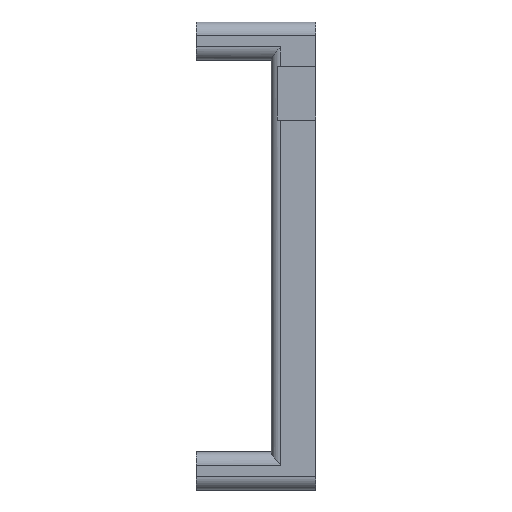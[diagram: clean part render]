
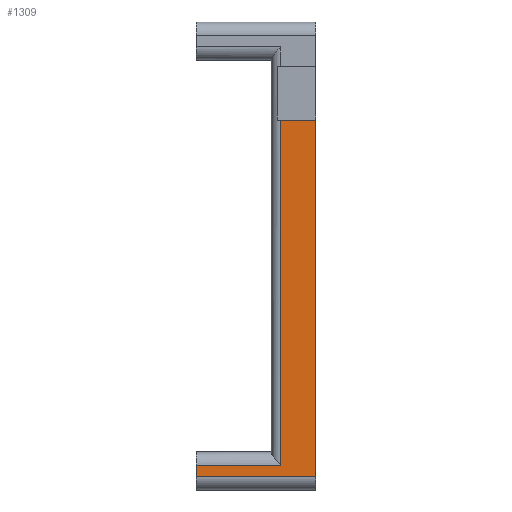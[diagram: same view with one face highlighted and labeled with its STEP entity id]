
A CAD part, left-side view. The second image highlights one B-rep face of the part: STEP entity #1309.
In plain terms, the highlighted planar face has unit normal (-1, 0, 0).
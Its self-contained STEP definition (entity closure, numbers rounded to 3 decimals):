
#52 = EDGE_CURVE ( 'NONE', #1018, #2530, #669, .T. ) ;
#133 = DIRECTION ( 'NONE',  ( 0., 0., -1. ) ) ;
#250 = EDGE_CURVE ( 'NONE', #613, #3420, #2413, .T. ) ;
#253 = VECTOR ( 'NONE', #2078, 1000. ) ;
#346 = CARTESIAN_POINT ( 'NONE',  ( -19.7, 2., -91.95 ) ) ;
#378 = CARTESIAN_POINT ( 'NONE',  ( -19.7, -6., -91.8 ) ) ;
#457 = VECTOR ( 'NONE', #1231, 1000. ) ;
#613 = VERTEX_POINT ( 'NONE', #378 ) ;
#669 = LINE ( 'NONE', #984, #253 ) ;
#675 = DIRECTION ( 'NONE',  ( 0., 0., 1. ) ) ;
#713 = CARTESIAN_POINT ( 'NONE',  ( -19.7, -6., -91.8 ) ) ;
#730 = CARTESIAN_POINT ( 'NONE',  ( -19.7, -6., -91.95 ) ) ;
#813 = VERTEX_POINT ( 'NONE', #1113 ) ;
#906 = AXIS2_PLACEMENT_3D ( 'NONE', #2044, #2642, #133 ) ;
#943 = PLANE ( 'NONE',  #906 ) ;
#960 = FACE_OUTER_BOUND ( 'NONE', #1740, .T. ) ;
#984 = CARTESIAN_POINT ( 'NONE',  ( -19.7, 20.85, -94.8 ) ) ;
#1018 = VERTEX_POINT ( 'NONE', #2936 ) ;
#1060 = LINE ( 'NONE', #1374, #2212 ) ;
#1113 = CARTESIAN_POINT ( 'NONE',  ( -19.7, 2., -11.95 ) ) ;
#1231 = DIRECTION ( 'NONE',  ( 0., -1., 0. ) ) ;
#1309 = ADVANCED_FACE ( 'NONE', ( #960 ), #943, .F. ) ;
#1374 = CARTESIAN_POINT ( 'NONE',  ( -19.7, -6., -11.95 ) ) ;
#1507 = ORIENTED_EDGE ( 'NONE', *, *, #2752, .T. ) ;
#1635 = DIRECTION ( 'NONE',  ( 0., 1., 0. ) ) ;
#1678 = ORIENTED_EDGE ( 'NONE', *, *, #3541, .T. ) ;
#1724 = DIRECTION ( 'NONE',  ( 0., 0., -1. ) ) ;
#1740 = EDGE_LOOP ( 'NONE', ( #1507, #2298, #1678, #3101, #2715, #1931 ) ) ;
#1755 = LINE ( 'NONE', #2608, #2181 ) ;
#1796 = LINE ( 'NONE', #713, #457 ) ;
#1910 = CARTESIAN_POINT ( 'NONE',  ( -19.7, 2., -89.25 ) ) ;
#1931 = ORIENTED_EDGE ( 'NONE', *, *, #250, .T. ) ;
#2044 = CARTESIAN_POINT ( 'NONE',  ( -19.7, -6., -91.95 ) ) ;
#2078 = DIRECTION ( 'NONE',  ( 0., 0., -1. ) ) ;
#2181 = VECTOR ( 'NONE', #2877, 1000. ) ;
#2212 = VECTOR ( 'NONE', #1635, 1000. ) ;
#2298 = ORIENTED_EDGE ( 'NONE', *, *, #3121, .T. ) ;
#2347 = VERTEX_POINT ( 'NONE', #1910 ) ;
#2413 = LINE ( 'NONE', #730, #2470 ) ;
#2470 = VECTOR ( 'NONE', #675, 1000. ) ;
#2530 = VERTEX_POINT ( 'NONE', #2595 ) ;
#2580 = LINE ( 'NONE', #346, #3274 ) ;
#2595 = CARTESIAN_POINT ( 'NONE',  ( -19.7, 20.85, -91.8 ) ) ;
#2608 = CARTESIAN_POINT ( 'NONE',  ( -19.7, 20.85, -89.25 ) ) ;
#2642 = DIRECTION ( 'NONE',  ( 1., 0., 0. ) ) ;
#2715 = ORIENTED_EDGE ( 'NONE', *, *, #2728, .T. ) ;
#2720 = CARTESIAN_POINT ( 'NONE',  ( -19.7, -6., -11.95 ) ) ;
#2728 = EDGE_CURVE ( 'NONE', #2530, #613, #1796, .T. ) ;
#2752 = EDGE_CURVE ( 'NONE', #3420, #813, #1060, .T. ) ;
#2877 = DIRECTION ( 'NONE',  ( 0., 1., 0. ) ) ;
#2936 = CARTESIAN_POINT ( 'NONE',  ( -19.7, 20.85, -89.25 ) ) ;
#3101 = ORIENTED_EDGE ( 'NONE', *, *, #52, .T. ) ;
#3121 = EDGE_CURVE ( 'NONE', #813, #2347, #2580, .T. ) ;
#3274 = VECTOR ( 'NONE', #1724, 1000. ) ;
#3420 = VERTEX_POINT ( 'NONE', #2720 ) ;
#3541 = EDGE_CURVE ( 'NONE', #2347, #1018, #1755, .T. ) ;
